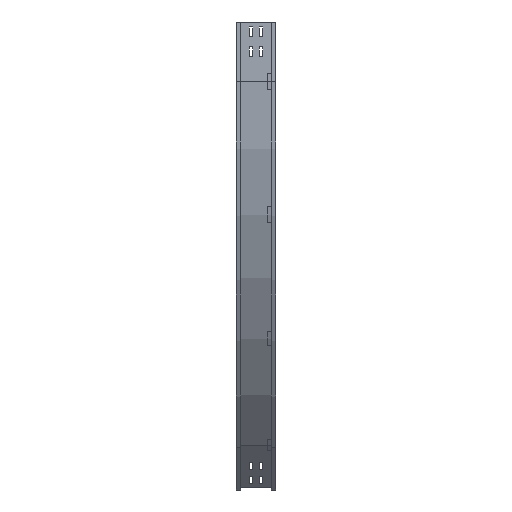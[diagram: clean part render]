
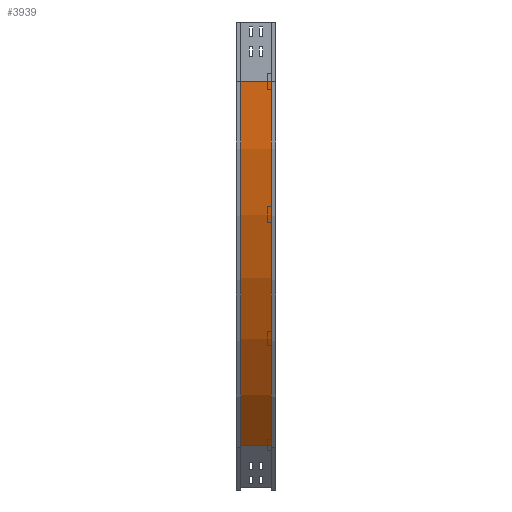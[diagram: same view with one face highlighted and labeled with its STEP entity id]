
A CAD part, left-side view. The second image highlights one B-rep face of the part: STEP entity #3939.
In plain terms, the highlighted cylindrical face has radius 1300 mm (diameter 2600 mm), a partial arc.
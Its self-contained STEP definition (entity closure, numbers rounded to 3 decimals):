
#102 = ORIENTED_EDGE ( 'NONE', *, *, #2350, .T. ) ;
#122 = CARTESIAN_POINT ( 'NONE',  ( 1309., 12., -150. ) ) ;
#127 = VERTEX_POINT ( 'NONE', #3469 ) ;
#175 = AXIS2_PLACEMENT_3D ( 'NONE', #122, #4240, #2203 ) ;
#239 = CARTESIAN_POINT ( 'NONE',  ( 9., 12., -150. ) ) ;
#992 = DIRECTION ( 'NONE',  ( 0., -1., 0. ) ) ;
#1005 = ORIENTED_EDGE ( 'NONE', *, *, #1505, .F. ) ;
#1110 = EDGE_LOOP ( 'NONE', ( #1005, #3350, #4068, #102 ) ) ;
#1298 = EDGE_CURVE ( 'NONE', #127, #3254, #3873, .T. ) ;
#1312 = CARTESIAN_POINT ( 'NONE',  ( 389.761, 12., -1069.239 ) ) ;
#1328 = DIRECTION ( 'NONE',  ( -1., 0., 0. ) ) ;
#1333 = EDGE_CURVE ( 'NONE', #127, #4512, #2412, .T. ) ;
#1426 = FACE_OUTER_BOUND ( 'NONE', #1110, .T. ) ;
#1494 = DIRECTION ( 'NONE',  ( 0., -1., 0. ) ) ;
#1505 = EDGE_CURVE ( 'NONE', #4512, #2184, #2868, .T. ) ;
#1575 = VECTOR ( 'NONE', #4208, 1000. ) ;
#1628 = CARTESIAN_POINT ( 'NONE',  ( 389.761, 88., -1069.239 ) ) ;
#1977 = CARTESIAN_POINT ( 'NONE',  ( 9., 12., -150. ) ) ;
#2069 = VECTOR ( 'NONE', #2389, 1000. ) ;
#2139 = CARTESIAN_POINT ( 'NONE',  ( 1309., 88., -150. ) ) ;
#2184 = VERTEX_POINT ( 'NONE', #1312 ) ;
#2203 = DIRECTION ( 'NONE',  ( -1., 0., 0. ) ) ;
#2318 = AXIS2_PLACEMENT_3D ( 'NONE', #4157, #1494, #2489 ) ;
#2350 = EDGE_CURVE ( 'NONE', #3254, #2184, #2828, .T. ) ;
#2389 = DIRECTION ( 'NONE',  ( 0., -1., 0. ) ) ;
#2412 = LINE ( 'NONE', #239, #2069 ) ;
#2489 = DIRECTION ( 'NONE',  ( 0., 0., -1. ) ) ;
#2507 = AXIS2_PLACEMENT_3D ( 'NONE', #2139, #992, #1328 ) ;
#2538 = CYLINDRICAL_SURFACE ( 'NONE', #2318, 1300. ) ;
#2828 = LINE ( 'NONE', #3818, #1575 ) ;
#2868 = CIRCLE ( 'NONE', #175, 1300. ) ;
#3254 = VERTEX_POINT ( 'NONE', #1628 ) ;
#3350 = ORIENTED_EDGE ( 'NONE', *, *, #1333, .F. ) ;
#3469 = CARTESIAN_POINT ( 'NONE',  ( 9., 88., -150. ) ) ;
#3818 = CARTESIAN_POINT ( 'NONE',  ( 389.761, 12., -1069.239 ) ) ;
#3873 = CIRCLE ( 'NONE', #2507, 1300. ) ;
#3939 = ADVANCED_FACE ( 'NONE', ( #1426 ), #2538, .T. ) ;
#4068 = ORIENTED_EDGE ( 'NONE', *, *, #1298, .T. ) ;
#4157 = CARTESIAN_POINT ( 'NONE',  ( 1309., 0., -150. ) ) ;
#4208 = DIRECTION ( 'NONE',  ( 0., -1., 0. ) ) ;
#4240 = DIRECTION ( 'NONE',  ( 0., -1., 0. ) ) ;
#4512 = VERTEX_POINT ( 'NONE', #1977 ) ;
